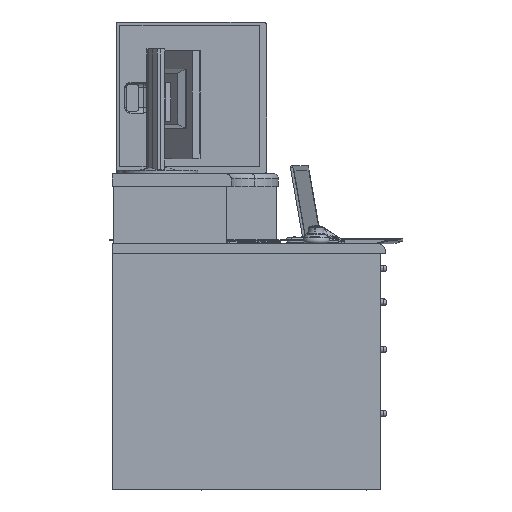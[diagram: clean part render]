
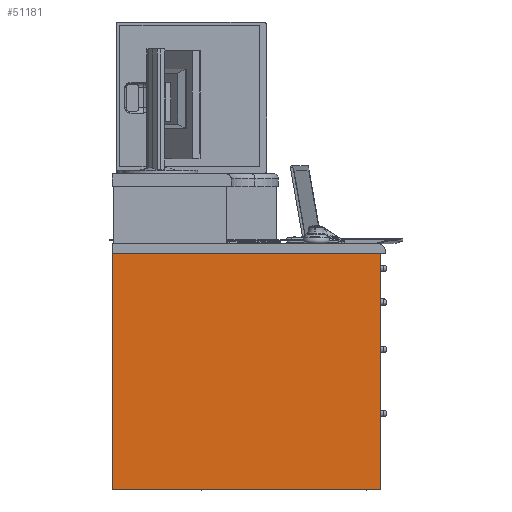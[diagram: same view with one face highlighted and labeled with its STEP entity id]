
A CAD part, left-side view. The second image highlights one B-rep face of the part: STEP entity #51181.
In plain terms, the highlighted planar face has unit normal (-1, 0, 0).
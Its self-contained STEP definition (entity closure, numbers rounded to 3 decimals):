
#3509=FACE_OUTER_BOUND('',#6397,.T.);
#6397=EDGE_LOOP('',(#34514,#34515,#34516,#34517));
#9729=LINE('',#68951,#15658);
#9730=LINE('',#68953,#15659);
#9731=LINE('',#68955,#15660);
#9732=LINE('',#68956,#15661);
#15658=VECTOR('',#57285,795.);
#15659=VECTOR('',#57286,700.);
#15660=VECTOR('',#57287,795.);
#15661=VECTOR('',#57288,700.);
#21953=VERTEX_POINT('',#68949);
#21954=VERTEX_POINT('',#68950);
#21955=VERTEX_POINT('',#68952);
#21956=VERTEX_POINT('',#68954);
#26929=EDGE_CURVE('',#21953,#21954,#9729,.T.);
#26930=EDGE_CURVE('',#21955,#21953,#9730,.T.);
#26931=EDGE_CURVE('',#21956,#21955,#9731,.T.);
#26932=EDGE_CURVE('',#21956,#21954,#9732,.T.);
#34514=ORIENTED_EDGE('',*,*,#26929,.F.);
#34515=ORIENTED_EDGE('',*,*,#26930,.F.);
#34516=ORIENTED_EDGE('',*,*,#26931,.F.);
#34517=ORIENTED_EDGE('',*,*,#26932,.T.);
#48945=PLANE('',#54191);
#51181=ADVANCED_FACE('',(#3509),#48945,.T.);
#54191=AXIS2_PLACEMENT_3D('',#68948,#57283,#57284);
#57283=DIRECTION('center_axis',(-1.,0.,0.));
#57284=DIRECTION('ref_axis',(0.,1.,0.));
#57285=DIRECTION('',(0.,1.,0.));
#57286=DIRECTION('',(0.,0.,-1.));
#57287=DIRECTION('',(0.,-1.,0.));
#57288=DIRECTION('',(0.,0.,-1.));
#68948=CARTESIAN_POINT('Origin',(-705.5,-390.,700.));
#68949=CARTESIAN_POINT('',(-705.5,-390.,0.));
#68950=CARTESIAN_POINT('',(-705.5,405.,0.));
#68951=CARTESIAN_POINT('',(-705.5,-191.25,0.));
#68952=CARTESIAN_POINT('',(-705.5,-390.,700.));
#68953=CARTESIAN_POINT('',(-705.5,-390.,700.));
#68954=CARTESIAN_POINT('',(-705.5,405.,700.));
#68955=CARTESIAN_POINT('',(-705.5,-195.,700.));
#68956=CARTESIAN_POINT('',(-705.5,405.,700.));
